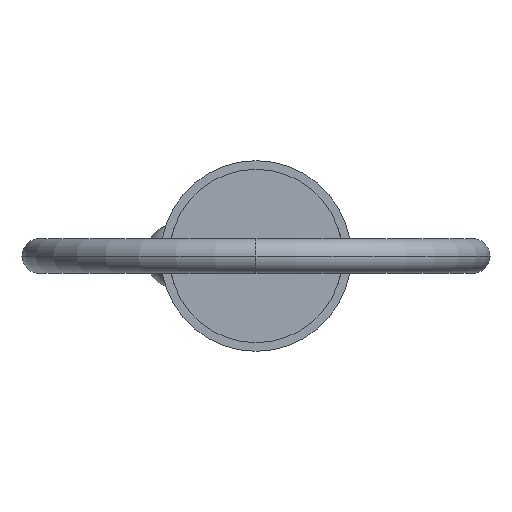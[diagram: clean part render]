
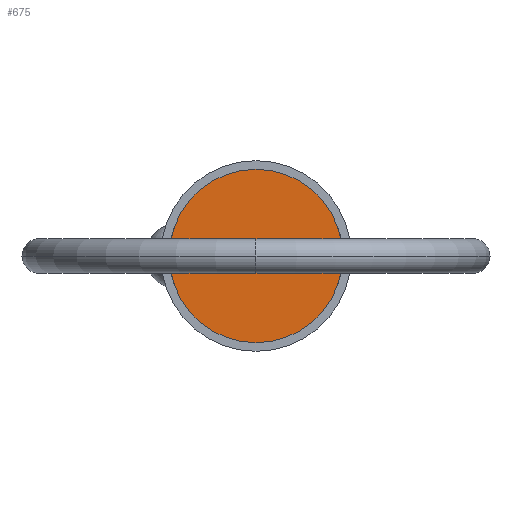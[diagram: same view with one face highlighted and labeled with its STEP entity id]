
A CAD part, left-side view. The second image highlights one B-rep face of the part: STEP entity #675.
In plain terms, the highlighted planar face has unit normal (-1, 0, 0).
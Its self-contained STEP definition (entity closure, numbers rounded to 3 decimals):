
#32 = VERTEX_POINT ( 'NONE', #581 ) ;
#33 = EDGE_CURVE ( 'NONE', #216, #32, #93, .T. ) ;
#76 = EDGE_LOOP ( 'NONE', ( #288, #124 ) ) ;
#93 = CIRCLE ( 'NONE', #144, 12.7 ) ;
#124 = ORIENTED_EDGE ( 'NONE', *, *, #33, .F. ) ;
#135 = PLANE ( 'NONE',  #957 ) ;
#144 = AXIS2_PLACEMENT_3D ( 'NONE', #431, #847, #442 ) ;
#216 = VERTEX_POINT ( 'NONE', #544 ) ;
#218 = DIRECTION ( 'NONE',  ( 0., 0., 1. ) ) ;
#250 = DIRECTION ( 'NONE',  ( 0., 0., -1. ) ) ;
#288 = ORIENTED_EDGE ( 'NONE', *, *, #769, .F. ) ;
#297 = CARTESIAN_POINT ( 'NONE',  ( 0., 0., 0. ) ) ;
#302 = FACE_OUTER_BOUND ( 'NONE', #76, .T. ) ;
#341 = DIRECTION ( 'NONE',  ( 1., 0., 0. ) ) ;
#362 = AXIS2_PLACEMENT_3D ( 'NONE', #410, #341, #250 ) ;
#410 = CARTESIAN_POINT ( 'NONE',  ( 0., 0., 0. ) ) ;
#431 = CARTESIAN_POINT ( 'NONE',  ( 0., 0., 0. ) ) ;
#442 = DIRECTION ( 'NONE',  ( 0., 0., -1. ) ) ;
#544 = CARTESIAN_POINT ( 'NONE',  ( 0., 0., 12.7 ) ) ;
#581 = CARTESIAN_POINT ( 'NONE',  ( 0., 0., -12.7 ) ) ;
#675 = ADVANCED_FACE ( 'NONE', ( #302 ), #135, .T. ) ;
#769 = EDGE_CURVE ( 'NONE', #32, #216, #1068, .T. ) ;
#798 = DIRECTION ( 'NONE',  ( -1., 0., 0. ) ) ;
#847 = DIRECTION ( 'NONE',  ( 1., 0., 0. ) ) ;
#957 = AXIS2_PLACEMENT_3D ( 'NONE', #297, #798, #218 ) ;
#1068 = CIRCLE ( 'NONE', #362, 12.7 ) ;
